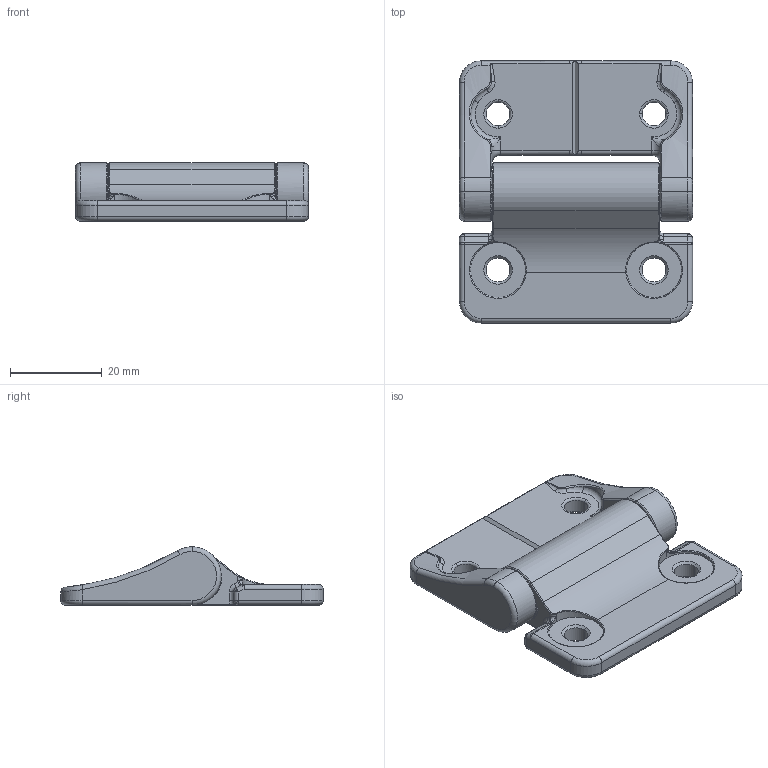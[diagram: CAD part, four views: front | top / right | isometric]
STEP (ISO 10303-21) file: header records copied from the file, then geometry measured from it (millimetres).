
FILE_DESCRIPTION (( 'STEP AP203' ), '1' );
FILE_NAME ('XG11-003-2.STEP', '2023-12-04T05:59:32', ( '' ), ( '' ), 'SwSTEP 2.0', 'SolidWorks 2020', '' );
FILE_SCHEMA (( 'CONFIG_CONTROL_DESIGN' ));
Length unit declared in the file: millimetre
Products named in the file (7): E6-58(2); E6-38-05^E6-58(2); E6-58-01; XG11-003-2; E6-38-04; E6-58-03; E6-58-02
Assembly tree (6 placements, depth 3):
  XG11-003-2
    E6-58(2)
      E6-58-01
      E6-58-02
      E6-58-03
      E6-38-04
      E6-38-05^E6-58(2)
Bounding box: 50.8 x 57.15 x 12.7 mm (x, y, z)
Volume: 16006.1 mm3; surface area: 8868.7 mm2
Topology: 5 solids, 5 shells, 386 faces, 980 edges, 606 vertices
Faces by surface type: cylinder 128, bspline 83, torus 69, plane 64, cone 26, sphere 16
Entity records: 17410 total; most frequent: CARTESIAN_POINT 8151, ORIENTED_EDGE 1952, DIRECTION 1604, EDGE_CURVE 976, AXIS2_PLACEMENT_3D 701, VERTEX_POINT 606, EDGE_LOOP 404, CIRCLE 388
